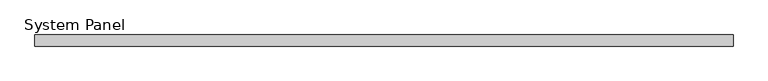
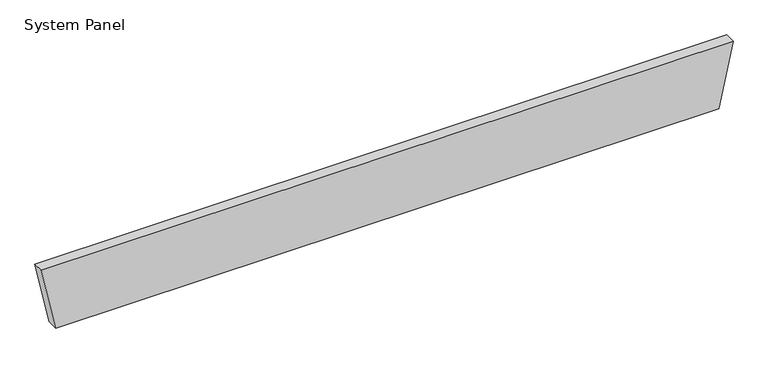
"""IFC4 building model written with IfcOpenShell, lengths in millimetres: plate geometry, System Panel : Equitilt_200mm_Plain_Surfmist."""

from ifc_helpers import new_model, si_unit, frame, origin, place, context, project, spatial, polyline, outline, extrude, source, transform, mapped, element, save


def system_panel_78b518a9(model_context):
    return source(origin(), model_context, "Body", "SweptSolid", [
        extrude(outline(polyline([(0.0, -6000.0), (0.0, 6000.0), (1200.0, 6260.8716619), (1200.0, -6260.8716619), (0.0, -6000.0)])), frame((0.0, -200.0, 0.0), z_axis=(0.0, 1.0, 0.0), x_axis=(0.0, 0.0, 1.0)), (0.0, 0.0, 1.0), 200.0),
    ])


if __name__ == "__main__":
    model = new_model("IFC4")
    model_context = context("Model", 3, world=origin())
    ifc_project = project(units=[si_unit("LENGTHUNIT", "METRE", prefix="MILLI")], contexts=[model_context])
    site = spatial("IfcSite", under=ifc_project)
    building = spatial("IfcBuilding", under=site)
    placement = place(None, origin())
    system_panel_shape = system_panel_78b518a9(model_context)
    element("IfcPlate", 1, ObjectType="System Panel : Equitilt_200mm_Plain_Surfmist", at=placement, inside=building, context=model_context, shape_type="MappedRepresentation", body=[
        mapped(system_panel_shape, transform((0.0, 0.0, 0.0), x_axis=(1.0, 0.0, 0.0), y_axis=(0.0, 1.0, 0.0), z_axis=(0.0, 0.0, 1.0))),
    ])
    save(model, "model.ifc")
